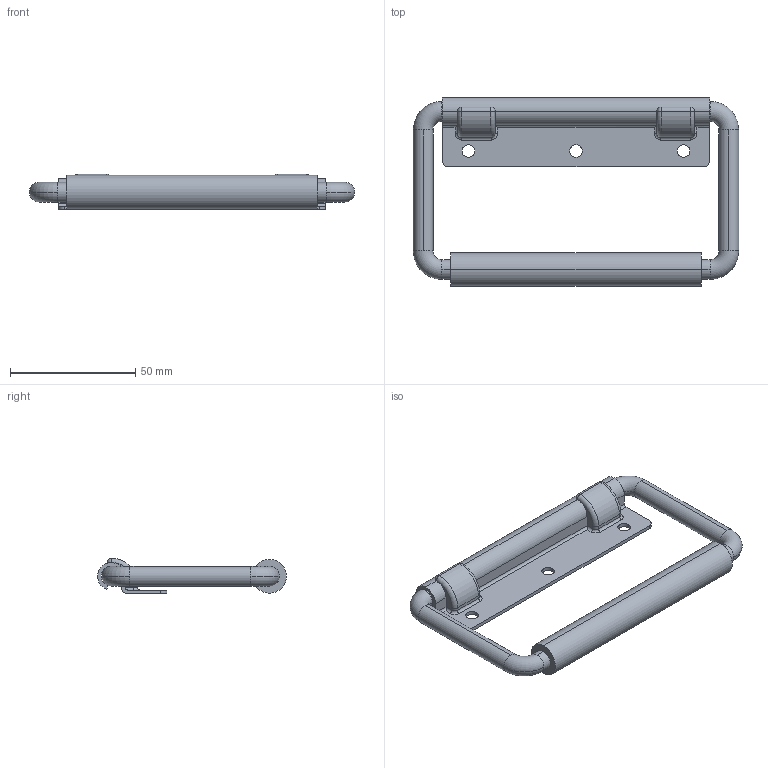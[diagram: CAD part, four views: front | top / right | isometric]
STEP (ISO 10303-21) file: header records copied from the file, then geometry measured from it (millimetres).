
FILE_DESCRIPTION(('STEP AP203'),'1');
FILE_NAME(' ',' ',('TraceParts'),('TraceParts S.A.'),'XStep 1.0',' ',' ');
FILE_SCHEMA(('CONFIG_CONTROL_DESIGN'));
Length unit declared in the file: millimetre
Products named in the file (2): 1; 2
Bounding box: 130 x 75.44 x 14.2 mm (x, y, z)
Volume: 35446.9 mm3; surface area: 20709.4 mm2
Topology: 2 solids, 2 shells, 96 faces, 240 edges, 144 vertices
Faces by surface type: cylinder 48, plane 28, torus 16, sphere 4
Entity records: 3108 total; most frequent: CARTESIAN_POINT 650, DIRECTION 552, ORIENTED_EDGE 472, EDGE_CURVE 236, AXIS2_PLACEMENT_3D 226, VERTEX_POINT 144, CIRCLE 124, EDGE_LOOP 104
